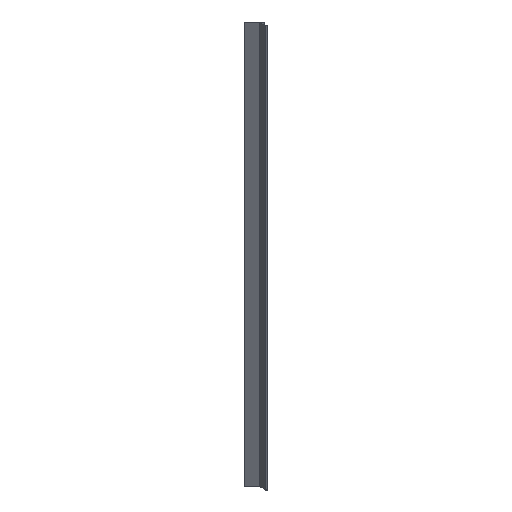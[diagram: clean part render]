
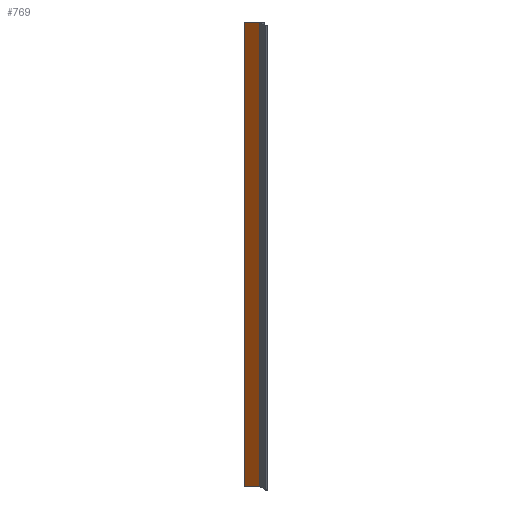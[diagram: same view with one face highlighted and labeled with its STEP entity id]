
A CAD part, isometric view. The second image highlights one B-rep face of the part: STEP entity #769.
In plain terms, the highlighted planar face has unit normal (-0.707, -0.707, 0).
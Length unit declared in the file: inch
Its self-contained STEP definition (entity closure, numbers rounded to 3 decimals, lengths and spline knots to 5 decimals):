
#7 = VECTOR ( 'NONE', #640, 39.37008 ) ;
#10 = CARTESIAN_POINT ( 'NONE',  ( 0.74503, -0.47459, 120. ) ) ;
#26 = ORIENTED_EDGE ( 'NONE', *, *, #558, .T. ) ;
#42 = EDGE_CURVE ( 'NONE', #759, #711, #209, .T. ) ;
#64 = DIRECTION ( 'NONE',  ( 0.707, -0.707, 0. ) ) ;
#76 = EDGE_LOOP ( 'NONE', ( #26, #707, #248, #326 ) ) ;
#84 = LINE ( 'NONE', #335, #239 ) ;
#124 = LINE ( 'NONE', #430, #164 ) ;
#159 = VERTEX_POINT ( 'NONE', #10 ) ;
#164 = VECTOR ( 'NONE', #468, 39.37008 ) ;
#182 = VECTOR ( 'NONE', #606, 39.37008 ) ;
#205 = AXIS2_PLACEMENT_3D ( 'NONE', #775, #718, #279 ) ;
#209 = LINE ( 'NONE', #575, #7 ) ;
#236 = CARTESIAN_POINT ( 'NONE',  ( -2.22836, 2.49879, 0. ) ) ;
#239 = VECTOR ( 'NONE', #64, 39.37008 ) ;
#248 = ORIENTED_EDGE ( 'NONE', *, *, #556, .F. ) ;
#268 = FACE_OUTER_BOUND ( 'NONE', #76, .T. ) ;
#279 = DIRECTION ( 'NONE',  ( -0.707, 0.707, 0. ) ) ;
#326 = ORIENTED_EDGE ( 'NONE', *, *, #42, .T. ) ;
#328 = CARTESIAN_POINT ( 'NONE',  ( -2.22836, 2.49879, 120. ) ) ;
#335 = CARTESIAN_POINT ( 'NONE',  ( -2.22836, 2.49879, 0. ) ) ;
#408 = CARTESIAN_POINT ( 'NONE',  ( -2.22836, 2.49879, 120. ) ) ;
#430 = CARTESIAN_POINT ( 'NONE',  ( 0.74503, -0.47459, 120. ) ) ;
#468 = DIRECTION ( 'NONE',  ( 0., 0., -1. ) ) ;
#531 = PLANE ( 'NONE',  #205 ) ;
#556 = EDGE_CURVE ( 'NONE', #759, #159, #763, .T. ) ;
#558 = EDGE_CURVE ( 'NONE', #711, #738, #84, .T. ) ;
#575 = CARTESIAN_POINT ( 'NONE',  ( -2.22836, 2.49879, 120. ) ) ;
#606 = DIRECTION ( 'NONE',  ( 0.707, -0.707, 0. ) ) ;
#640 = DIRECTION ( 'NONE',  ( 0., 0., -1. ) ) ;
#661 = CARTESIAN_POINT ( 'NONE',  ( 0.74503, -0.47459, 0. ) ) ;
#707 = ORIENTED_EDGE ( 'NONE', *, *, #716, .F. ) ;
#711 = VERTEX_POINT ( 'NONE', #236 ) ;
#716 = EDGE_CURVE ( 'NONE', #159, #738, #124, .T. ) ;
#718 = DIRECTION ( 'NONE',  ( 0.707, 0.707, 0. ) ) ;
#738 = VERTEX_POINT ( 'NONE', #661 ) ;
#759 = VERTEX_POINT ( 'NONE', #408 ) ;
#763 = LINE ( 'NONE', #328, #182 ) ;
#769 = ADVANCED_FACE ( 'NONE', ( #268 ), #531, .F. ) ;
#775 = CARTESIAN_POINT ( 'NONE',  ( -2.22836, 2.49879, 120. ) ) ;
